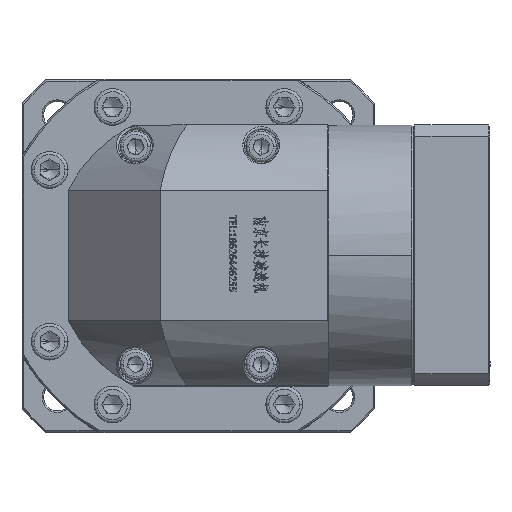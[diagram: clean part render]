
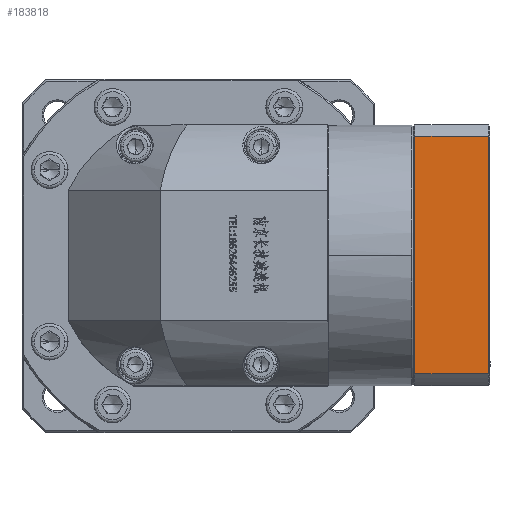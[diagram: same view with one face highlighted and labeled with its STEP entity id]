
A CAD part, top view. The second image highlights one B-rep face of the part: STEP entity #183818.
In plain terms, the highlighted planar face has unit normal (0, 0, 1).
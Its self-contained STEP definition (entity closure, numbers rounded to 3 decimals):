
#6700 = DIRECTION ( 'NONE',  ( 0., 1., 0. ) ) ;
#8719 = VERTEX_POINT ( 'NONE', #124147 ) ;
#8753 = CARTESIAN_POINT ( 'NONE',  ( 99.48, 75.977, -9.136 ) ) ;
#20358 = PLANE ( 'NONE',  #123577 ) ;
#20920 = VERTEX_POINT ( 'NONE', #8753 ) ;
#33589 = EDGE_CURVE ( 'NONE', #61892, #20920, #170437, .T. ) ;
#35790 = EDGE_CURVE ( 'NONE', #8719, #61892, #95101, .T. ) ;
#38693 = CARTESIAN_POINT ( 'NONE',  ( 99.48, 153.437, -9.136 ) ) ;
#40234 = ORIENTED_EDGE ( 'NONE', *, *, #33589, .F. ) ;
#42921 = ORIENTED_EDGE ( 'NONE', *, *, #35790, .F. ) ;
#48548 = DIRECTION ( 'NONE',  ( 0., -1., 0. ) ) ;
#48559 = VECTOR ( 'NONE', #49412, 1000. ) ;
#49412 = DIRECTION ( 'NONE',  ( 1., 0., 0. ) ) ;
#57437 = VECTOR ( 'NONE', #48548, 1000. ) ;
#60001 = ORIENTED_EDGE ( 'NONE', *, *, #156430, .T. ) ;
#61892 = VERTEX_POINT ( 'NONE', #105558 ) ;
#71898 = EDGE_CURVE ( 'NONE', #96206, #8719, #161678, .T. ) ;
#74567 = FACE_OUTER_BOUND ( 'NONE', #183725, .T. ) ;
#75576 = VECTOR ( 'NONE', #84356, 1000. ) ;
#76343 = DIRECTION ( 'NONE',  ( -1., 0., 0. ) ) ;
#77873 = CARTESIAN_POINT ( 'NONE',  ( 123.98, 153.437, -9.136 ) ) ;
#84356 = DIRECTION ( 'NONE',  ( 0., -1., 0. ) ) ;
#90684 = CARTESIAN_POINT ( 'NONE',  ( 123.48, 72.207, -9.136 ) ) ;
#91555 = DIRECTION ( 'NONE',  ( 0., 0., -1. ) ) ;
#95101 = LINE ( 'NONE', #90684, #57437 ) ;
#96206 = VERTEX_POINT ( 'NONE', #38693 ) ;
#105558 = CARTESIAN_POINT ( 'NONE',  ( 123.48, 75.977, -9.136 ) ) ;
#123577 = AXIS2_PLACEMENT_3D ( 'NONE', #176473, #91555, #6700 ) ;
#124147 = CARTESIAN_POINT ( 'NONE',  ( 123.48, 153.437, -9.136 ) ) ;
#126472 = CARTESIAN_POINT ( 'NONE',  ( 99.48, 72.207, -9.136 ) ) ;
#132727 = VECTOR ( 'NONE', #76343, 1000. ) ;
#132780 = CARTESIAN_POINT ( 'NONE',  ( -65.281, 75.977, -9.136 ) ) ;
#145670 = ORIENTED_EDGE ( 'NONE', *, *, #71898, .F. ) ;
#150995 = LINE ( 'NONE', #126472, #75576 ) ;
#156430 = EDGE_CURVE ( 'NONE', #96206, #20920, #150995, .T. ) ;
#161678 = LINE ( 'NONE', #77873, #48559 ) ;
#170437 = LINE ( 'NONE', #132780, #132727 ) ;
#176473 = CARTESIAN_POINT ( 'NONE',  ( 123.98, 72.207, -9.136 ) ) ;
#183725 = EDGE_LOOP ( 'NONE', ( #60001, #40234, #42921, #145670 ) ) ;
#183818 = ADVANCED_FACE ( 'NONE', ( #74567 ), #20358, .F. ) ;
